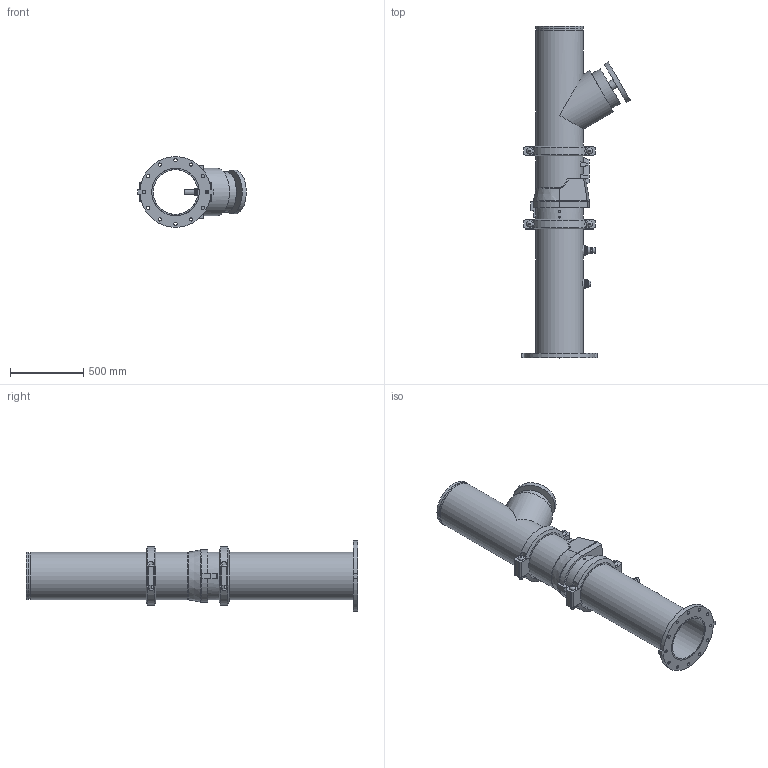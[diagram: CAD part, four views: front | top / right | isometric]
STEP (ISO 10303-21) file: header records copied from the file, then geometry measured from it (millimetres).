
FILE_DESCRIPTION(/* description */ ('VIC DVI PUMP DROP VERT S/383 (OGSxFLG) (S/924-0.75)','CAx-IF Rec.Pracs.---Representation and Presentation of Product Manufacturing Information (PMI)---4.0---2014-10-13'),/* implementation_level */ '2;1');
FILE_NAME(/* name */ 'C:\Users\Public\Documents\Victaulic.Temp\A849\Victaulic_IPS_Vertical DVI_CL 150_Series 383 (OGSxFLG)_924 (0.75)_12.0x12.0 (300x300).stp',/* time_stamp */ '2022-07-25T11:42:54+02:00',/* author */ ('Vjadhav'),/* organization */ ('Victaulic'),/* preprocessor_version */ 'ST-DEVELOPER v18',/* originating_system */ 'Autodesk Inventor 2020',/* authorisation */ '');
FILE_SCHEMA (('AP242_MANAGED_MODEL_BASED_3D_ENGINEERING_MIM_LF { 1 0 10303 442 1 1 4 }'));
Length unit declared in the file: inch
Products named in the file (8): 383_924 (0.75)-12.0x12.0; 741-12.0; Pipe-12.0x12.0; 789-12.0; 779-12.0; 924-10.0x0.75; 923-10.0x0.75; 077-12.0
Assembly tree (8 placements, depth 2):
  383_924 (0.75)-12.0x12.0
    741-12.0
    Pipe-12.0x12.0
    789-12.0
    779-12.0
    924-10.0x0.75
    923-10.0x0.75
    077-12.0  x2
Bounding box: 739.77 x 2263.9 x 482.6 mm (x, y, z)
Volume: 58392630.9 mm3; surface area: 6092795.5 mm2
Topology: 8 solids, 12 shells, 367 faces, 923 edges, 630 vertices
Faces by surface type: plane 220, cylinder 122, cone 13, torus 6, bspline 6
Full cylindrical faces by diameter (mm): 13.716 x4, 21.336 x1, 22.225 x12, 25.4 x8, 26.67 x2, 27.432 x4, 38.608 x1, 45.974 x4, 55.626 x2, 60.96 x1, 76.2 x1, 273.05 x1, 299.974 x1, 303.225 x2, 304.8 x1, 314.96 x2, 318.287 x6, 323.85 x16
Entity records: 10464 total; most frequent: CARTESIAN_POINT 2038, DIRECTION 1719, ORIENTED_EDGE 1556, EDGE_CURVE 778, AXIS2_PLACEMENT_3D 653, VERTEX_POINT 532, LINE 413, VECTOR 413
